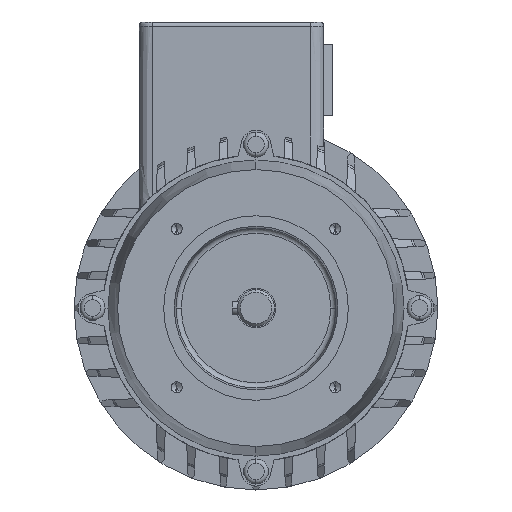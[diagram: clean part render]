
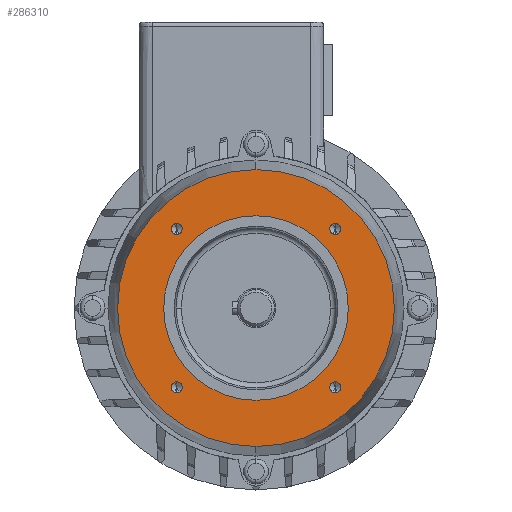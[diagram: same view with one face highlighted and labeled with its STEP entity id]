
A CAD part, left-side view. The second image highlights one B-rep face of the part: STEP entity #286310.
In plain terms, the highlighted planar face has unit normal (-1, 0, 0) as drawn and (0, 0, -1) by its records, which use the part's own axes.
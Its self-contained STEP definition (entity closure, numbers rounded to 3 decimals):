
#285230=CARTESIAN_POINT('',(-1404.834,-470.685,
-30.7));
#285240=VERTEX_POINT('',#285230);
#285270=CARTESIAN_POINT('',(-1457.334,-470.685,
-30.7));
#285280=DIRECTION('',(0.,0.,1.));
#285290=DIRECTION('',(-1.,0.,0.));
#285300=AXIS2_PLACEMENT_3D('',#285270,#285280,#285290);
#285310=CIRCLE('',#285300,52.5);
#285320=CARTESIAN_POINT('',(-1509.834,-470.685,
-30.7));
#285330=VERTEX_POINT('',#285320);
#285340=EDGE_CURVE('',#285330,#285240,#285310,.T.);
#285460=CARTESIAN_POINT('',(-1413.584,-470.685,
-30.7));
#285470=DIRECTION('',(0.,0.,-1.));
#285480=DIRECTION('',(1.,0.,0.));
#285490=AXIS2_PLACEMENT_3D('',#285460,#285470,#285480);
#285500=PLANE('',#285490);
#285510=ORIENTED_EDGE('',*,*,#285340,.F.);
#285520=EDGE_CURVE('',#285240,#285330,#285310,.T.);
#285530=ORIENTED_EDGE('',*,*,#285520,.F.);
#285540=EDGE_LOOP('',(#285530,#285510));
#285550=FACE_OUTER_BOUND('',#285540,.T.);
#285560=CARTESIAN_POINT('',(-1457.334,-470.685,
-30.7));
#285570=DIRECTION('',(0.,0.,-1.));
#285580=DIRECTION('',(1.,0.,0.));
#285590=AXIS2_PLACEMENT_3D('',#285560,#285570,#285580);
#285600=CIRCLE('',#285590,35.);
#285610=CARTESIAN_POINT('',(-1492.334,-470.685,
-30.7));
#285620=VERTEX_POINT('',#285610);
#285630=CARTESIAN_POINT('',(-1422.334,-470.685,
-30.7));
#285640=VERTEX_POINT('',#285630);
#285650=EDGE_CURVE('',#285620,#285640,#285600,.T.);
#285660=ORIENTED_EDGE('',*,*,#285650,.F.);
#285670=EDGE_CURVE('',#285640,#285620,#285600,.T.);
#285680=ORIENTED_EDGE('',*,*,#285670,.F.);
#285690=EDGE_LOOP('',(#285680,#285660));
#285700=FACE_BOUND('',#285690,.T.);
#285710=CARTESIAN_POINT('',(-1427.282,-500.737,
-30.7));
#285720=DIRECTION('',(0.,0.,-1.));
#285730=DIRECTION('',(1.,0.,0.));
#285740=AXIS2_PLACEMENT_3D('',#285710,#285720,#285730);
#285750=CIRCLE('',#285740,2.1);
#285760=CARTESIAN_POINT('',(-1425.182,-500.737,
-30.7));
#285770=VERTEX_POINT('',#285760);
#285780=CARTESIAN_POINT('',(-1429.382,-500.737,
-30.7));
#285790=VERTEX_POINT('',#285780);
#285800=EDGE_CURVE('',#285770,#285790,#285750,.T.);
#285810=ORIENTED_EDGE('',*,*,#285800,.F.);
#285820=EDGE_CURVE('',#285790,#285770,#285750,.T.);
#285830=ORIENTED_EDGE('',*,*,#285820,.F.);
#285840=EDGE_LOOP('',(#285830,#285810));
#285850=FACE_BOUND('',#285840,.T.);
#285860=CARTESIAN_POINT('',(-1427.282,-440.633,
-30.7));
#285870=DIRECTION('',(0.,0.,-1.));
#285880=DIRECTION('',(1.,0.,0.));
#285890=AXIS2_PLACEMENT_3D('',#285860,#285870,#285880);
#285900=CIRCLE('',#285890,2.1);
#285910=CARTESIAN_POINT('',(-1425.182,-440.633,
-30.7));
#285920=VERTEX_POINT('',#285910);
#285930=CARTESIAN_POINT('',(-1429.382,-440.633,
-30.7));
#285940=VERTEX_POINT('',#285930);
#285950=EDGE_CURVE('',#285920,#285940,#285900,.T.);
#285960=ORIENTED_EDGE('',*,*,#285950,.F.);
#285970=EDGE_CURVE('',#285940,#285920,#285900,.T.);
#285980=ORIENTED_EDGE('',*,*,#285970,.F.);
#285990=EDGE_LOOP('',(#285980,#285960));
#286000=FACE_BOUND('',#285990,.T.);
#286010=CARTESIAN_POINT('',(-1487.386,-440.633,
-30.7));
#286020=DIRECTION('',(0.,0.,-1.));
#286030=DIRECTION('',(1.,0.,0.));
#286040=AXIS2_PLACEMENT_3D('',#286010,#286020,#286030);
#286050=CIRCLE('',#286040,2.1);
#286060=CARTESIAN_POINT('',(-1485.286,-440.633,
-30.7));
#286070=VERTEX_POINT('',#286060);
#286080=CARTESIAN_POINT('',(-1489.486,-440.633,
-30.7));
#286090=VERTEX_POINT('',#286080);
#286100=EDGE_CURVE('',#286070,#286090,#286050,.T.);
#286110=ORIENTED_EDGE('',*,*,#286100,.F.);
#286120=EDGE_CURVE('',#286090,#286070,#286050,.T.);
#286130=ORIENTED_EDGE('',*,*,#286120,.F.);
#286140=EDGE_LOOP('',(#286130,#286110));
#286150=FACE_BOUND('',#286140,.T.);
#286160=CARTESIAN_POINT('',(-1487.386,-500.737,
-30.7));
#286170=DIRECTION('',(0.,0.,-1.));
#286180=DIRECTION('',(1.,0.,0.));
#286190=AXIS2_PLACEMENT_3D('',#286160,#286170,#286180);
#286200=CIRCLE('',#286190,2.1);
#286210=CARTESIAN_POINT('',(-1489.486,-500.737,
-30.7));
#286220=VERTEX_POINT('',#286210);
#286230=CARTESIAN_POINT('',(-1485.286,-500.737,
-30.7));
#286240=VERTEX_POINT('',#286230);
#286250=EDGE_CURVE('',#286220,#286240,#286200,.T.);
#286260=ORIENTED_EDGE('',*,*,#286250,.F.);
#286270=EDGE_CURVE('',#286240,#286220,#286200,.T.);
#286280=ORIENTED_EDGE('',*,*,#286270,.F.);
#286290=EDGE_LOOP('',(#286280,#286260));
#286300=FACE_BOUND('',#286290,.T.);
#286310=ADVANCED_FACE('',(#285550,#285700,#285850,#286000,#286150,
#286300),#285500,.T.);
